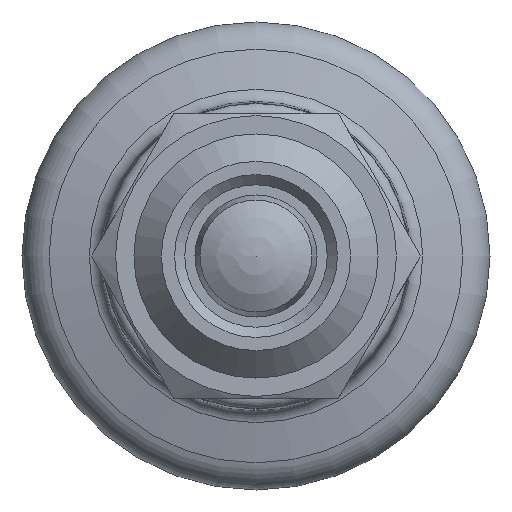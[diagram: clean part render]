
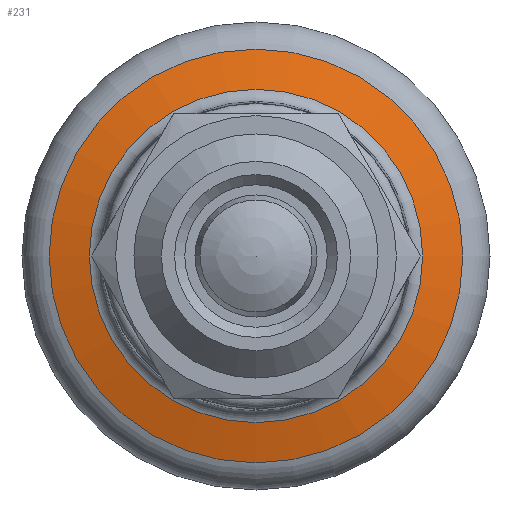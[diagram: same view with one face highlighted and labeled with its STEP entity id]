
A CAD part, front view. The second image highlights one B-rep face of the part: STEP entity #231.
In plain terms, the highlighted conical face has half-angle 75 degrees and reference radius 10.166 mm.
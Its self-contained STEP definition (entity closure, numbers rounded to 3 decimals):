
#231 = ADVANCED_FACE( '', ( #315, #316 ), #317, .T. );
#315 = FACE_BOUND( '', #458, .T. );
#316 = FACE_OUTER_BOUND( '', #459, .T. );
#317 = CONICAL_SURFACE( '', #460, 10.166, 1.309 );
#458 = EDGE_LOOP( '', ( #641 ) );
#459 = EDGE_LOOP( '', ( #642 ) );
#460 = AXIS2_PLACEMENT_3D( '', #643, #644, #645 );
#641 = ORIENTED_EDGE( '', *, *, #743, .F. );
#642 = ORIENTED_EDGE( '', *, *, #742, .T. );
#643 = CARTESIAN_POINT( '', ( 0., 47.143, 0. ) );
#644 = DIRECTION( '', ( 0., 1., 0. ) );
#645 = DIRECTION( '', ( 0., 0., 1. ) );
#742 = EDGE_CURVE( '', #820, #820, #821, .T. );
#743 = EDGE_CURVE( '', #822, #822, #823, .T. );
#820 = VERTEX_POINT( '', #1040 );
#821 = CIRCLE( '', #1041, 10.166 );
#822 = VERTEX_POINT( '', #1042 );
#823 = CIRCLE( '', #1043, 8.192 );
#1040 = CARTESIAN_POINT( '', ( 0., 47.143, -10.166 ) );
#1041 = AXIS2_PLACEMENT_3D( '', #1123, #1124, #1125 );
#1042 = CARTESIAN_POINT( '', ( 0., 46.614, -8.192 ) );
#1043 = AXIS2_PLACEMENT_3D( '', #1126, #1127, #1128 );
#1123 = CARTESIAN_POINT( '', ( 0., 47.143, 0. ) );
#1124 = DIRECTION( '', ( 0., -1., 0. ) );
#1125 = DIRECTION( '', ( 0., 0., -1. ) );
#1126 = CARTESIAN_POINT( '', ( 0., 46.614, 0. ) );
#1127 = DIRECTION( '', ( 0., -1., 0. ) );
#1128 = DIRECTION( '', ( 0., 0., -1. ) );
